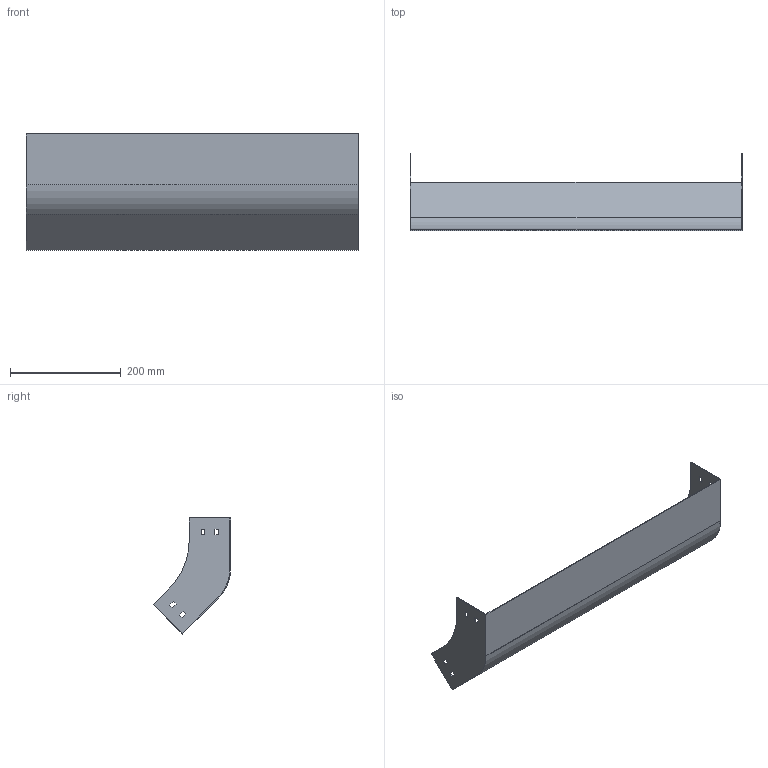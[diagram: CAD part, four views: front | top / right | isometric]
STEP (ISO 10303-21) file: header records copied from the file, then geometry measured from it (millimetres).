
FILE_DESCRIPTION (( 'STEP AP214' ), '1' );
FILE_NAME ('S4_607.step', '2025-07-16T09:27:24', ( '' ), ( '' ), 'SwSTEP 2.0', 'SolidWorks 2023', '' );
FILE_SCHEMA (( 'AUTOMOTIVE_DESIGN' ));
Length unit declared in the file: millimetre
Products named in the file (1): S4_607
Bounding box: 600 x 139.9 x 209.71 mm (x, y, z)
Volume: 264688.7 mm3; surface area: 356103.5 mm2
Topology: 1 solids, 1 shells, 50 faces, 144 edges, 96 vertices
Faces by surface type: plane 46, cylinder 4
Entity records: 1671 total; most frequent: CARTESIAN_POINT 291, ORIENTED_EDGE 288, DIRECTION 254, EDGE_CURVE 144, LINE 136, VECTOR 136, VERTEX_POINT 96, EDGE_LOOP 66
